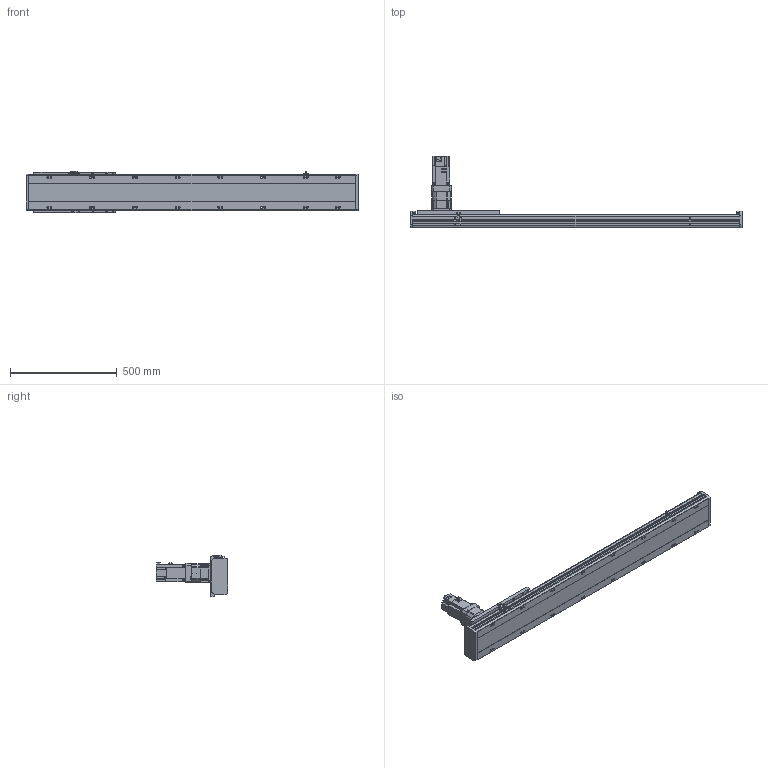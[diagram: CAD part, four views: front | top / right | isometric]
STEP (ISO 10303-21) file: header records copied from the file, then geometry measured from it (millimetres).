
FILE_DESCRIPTION(/* description */ ('STEP AP203'),/* implementation_level */ '2;1');
FILE_NAME(/* name */ 'SHS17A-L13-S1100-BC-T75-C1-N(0)',/* time_stamp */ '2023-03-27T08:57:24+02:00',/* author */ ('License CC BY-ND 4.0'),/* organization */ ('CADENAS'),/* preprocessor_version */ 'ST-DEVELOPER v19.3',/* originating_system */ 'PARTsolutions',/* authorisation */ ' ');
FILE_SCHEMA (('CONFIG_CONTROL_DESIGN'));
Length unit declared in the file: millimetre
Products named in the file (7): SHS17A-L13-S1100-BC-T75-C1-N(0); PSC140-sensor; SHS17A-S1100(0)_body2; T75-p1; SHS17A-S1100_body3; SHS17A-S1100-C1(0)_slider; SHS17A-S1100-C1(0)_body
Assembly tree (13 placements, depth 2):
  SHS17A-L13-S1100-BC-T75-C1-N(0)
    PSC140-sensor  x3
    SHS17A-S1100(0)_body2  x6
    T75-p1
    SHS17A-S1100_body3
    SHS17A-S1100-C1(0)_slider
    SHS17A-S1100-C1(0)_body
Bounding box: 1554 x 333.8 x 193.4 mm (x, y, z)
Volume: 12539253.7 mm3; surface area: 1504081 mm2
Topology: 13 solids, 13 shells, 1912 faces, 4831 edges, 3150 vertices
Faces by surface type: plane 1273, cylinder 566, cone 70, torus 3
Full cylindrical faces by diameter (mm): 2.8 x3, 4.134 x24, 4.5 x2, 4.6 x3, 4.917 x15, 5.5 x48, 6 x7, 6.5 x24, 6.647 x24, 6.8 x9, 8 x3, 8.5 x16, 10 x28, 11 x4, 14 x16, 22 x1, 24 x1, 24.2 x1, 28 x1, 28.2 x1, 28.8 x1, 29.8 x1, 48.542 x1, 68 x1, 70 x1, 78 x1, 80 x2
Entity records: 33892 total; most frequent: CARTESIAN_POINT 6328, DIRECTION 5623, ORIENTED_EDGE 5356, EDGE_CURVE 2678, AXIS2_PLACEMENT_3D 1946, VERTEX_POINT 1879, LINE 1731, VECTOR 1731
